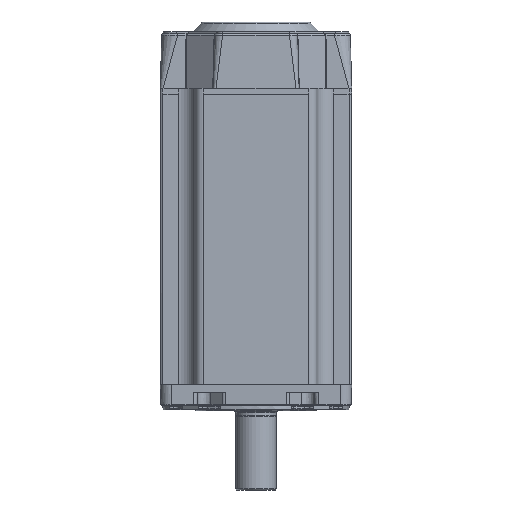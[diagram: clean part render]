
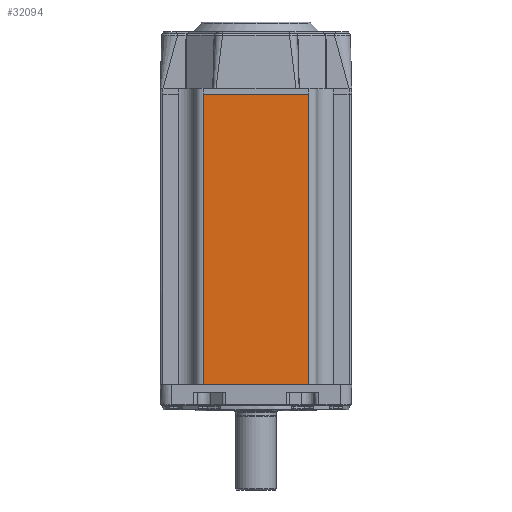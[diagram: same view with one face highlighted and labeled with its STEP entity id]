
A CAD part, front view. The second image highlights one B-rep face of the part: STEP entity #32094.
In plain terms, the highlighted planar face has unit normal (0, -1, 0).
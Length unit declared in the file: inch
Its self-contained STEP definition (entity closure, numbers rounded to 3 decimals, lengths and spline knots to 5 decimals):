
#29874=CARTESIAN_POINT('',(1.2275,-2.225,-6.75));
#29875=VERTEX_POINT('',#29874);
#29882=CARTESIAN_POINT('',(-1.2275,-2.225,-6.75));
#29883=VERTEX_POINT('',#29882);
#29884=CARTESIAN_POINT('',(-1.2275,-2.225,-6.75));
#29885=DIRECTION('',(1.0,0.0,0.0));
#29886=VECTOR('',#29885,2.455);
#29887=LINE('',#29884,#29886);
#29888=EDGE_CURVE('',#29883,#29875,#29887,.T.);
#31995=CARTESIAN_POINT('',(1.2275,-2.225,0.));
#31996=VERTEX_POINT('',#31995);
#31997=CARTESIAN_POINT('',(1.2275,-2.225,0.));
#31998=DIRECTION('',(0.0,0.0,-1.0));
#31999=VECTOR('',#31998,6.75);
#32000=LINE('',#31997,#31999);
#32001=EDGE_CURVE('',#31996,#29875,#32000,.T.);
#32071=CARTESIAN_POINT('',(1.415,-2.225,0.0));
#32072=DIRECTION('',(0.0,-1.0,0.0));
#32073=DIRECTION('',(0.0,0.0,-1.0));
#32074=AXIS2_PLACEMENT_3D('',#32071,#32072,#32073);
#32075=PLANE('',#32074);
#32076=CARTESIAN_POINT('',(-1.2275,-2.225,0.));
#32077=VERTEX_POINT('',#32076);
#32078=CARTESIAN_POINT('',(1.2275,-2.225,0.));
#32079=DIRECTION('',(-1.0,0.0,0.0));
#32080=VECTOR('',#32079,2.455);
#32081=LINE('',#32078,#32080);
#32082=EDGE_CURVE('',#31996,#32077,#32081,.T.);
#32083=ORIENTED_EDGE('',*,*,#32082,.T.);
#32084=CARTESIAN_POINT('',(-1.2275,-2.225,-6.75));
#32085=DIRECTION('',(0.0,0.0,1.0));
#32086=VECTOR('',#32085,6.75);
#32087=LINE('',#32084,#32086);
#32088=EDGE_CURVE('',#29883,#32077,#32087,.T.);
#32089=ORIENTED_EDGE('',*,*,#32088,.F.);
#32090=ORIENTED_EDGE('',*,*,#29888,.T.);
#32091=ORIENTED_EDGE('',*,*,#32001,.F.);
#32092=EDGE_LOOP('',(#32083,#32089,#32090,#32091));
#32093=FACE_OUTER_BOUND('',#32092,.T.);
#32094=ADVANCED_FACE('',(#32093),#32075,.T.);
